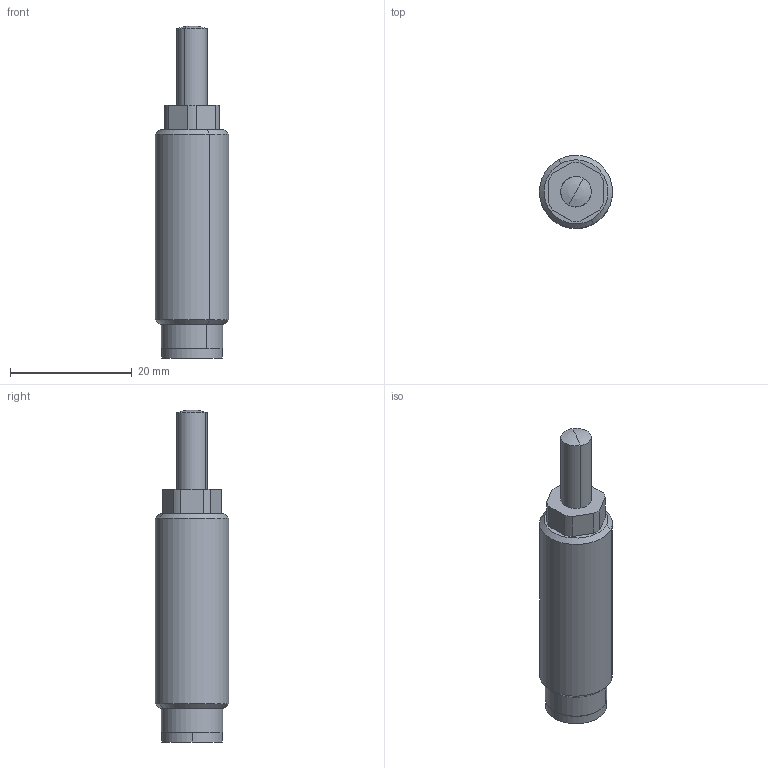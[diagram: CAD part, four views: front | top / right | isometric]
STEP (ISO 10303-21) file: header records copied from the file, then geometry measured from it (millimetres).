
FILE_DESCRIPTION(('CATIA V5 STEP Exchange'),'2;1');
FILE_NAME('\\Kjf-102\kjf_tc\Hydraulic_Clamp\Standard\THREADED_BODY\MTB-08XX\MTB-0810.stp','2023-07-07T03:24:05+00:00',('none'),('none'),'CATIA Version 5 Release 19 SP 6 (IN-10)','CATIA V5 STEP AP203','none');
FILE_SCHEMA(('CONFIG_CONTROL_DESIGN'));
Length unit declared in the file: millimetre
Products named in the file (1): MTB-0810_-
Assembly tree (3 placements, depth 2):
  MTB-0810_-
    #58
    #852
    #975
Bounding box: 12 x 12 x 54.5 mm (x, y, z)
Volume: 4483.5 mm3; surface area: 2997.4 mm2
Topology: 3 solids, 3 shells, 41 faces, 90 edges, 57 vertices
Faces by surface type: cylinder 18, plane 15, cone 6, sphere 2
Entity records: 1127 total; most frequent: CARTESIAN_POINT 179, ORIENTED_EDGE 176, DIRECTION 156, EDGE_CURVE 88, AXIS2_PLACEMENT_3D 80, VERTEX_POINT 57, EDGE_LOOP 47, CIRCLE 46
